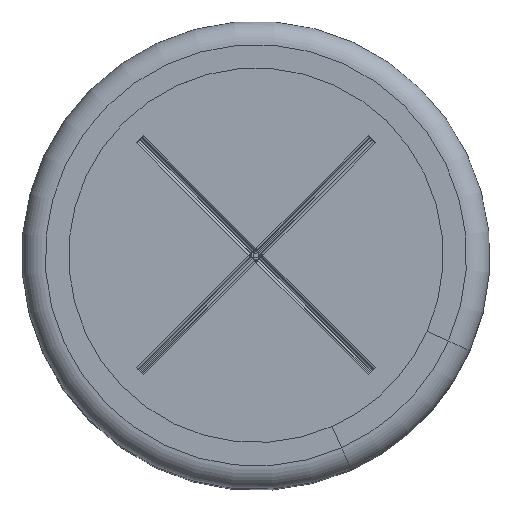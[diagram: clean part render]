
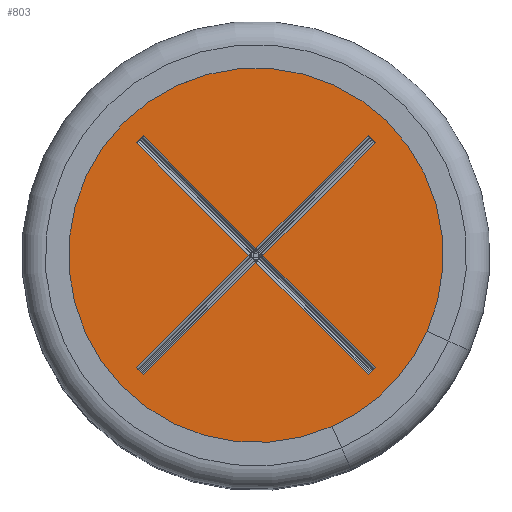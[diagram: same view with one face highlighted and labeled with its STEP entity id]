
A CAD part, top view. The second image highlights one B-rep face of the part: STEP entity #803.
In plain terms, the highlighted planar face has unit normal (0, 0, 1).
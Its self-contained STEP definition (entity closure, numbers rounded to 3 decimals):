
#176=FACE_BOUND('',#1284,.T.);
#177=FACE_BOUND('',#1285,.T.);
#687=PLANE('',#4047);
#803=ADVANCED_FACE('',(#176,#177),#687,.T.);
#1284=EDGE_LOOP('',(#2130));
#1285=EDGE_LOOP('',(#2131,#2132,#2133,#2134,#2135,#2136,#2137,#2138,#2139,
#2140,#2141,#2142));
#1517=LINE('',#5710,#1771);
#1518=LINE('',#5713,#1772);
#1519=LINE('',#5715,#1773);
#1520=LINE('',#5717,#1774);
#1521=LINE('',#5719,#1775);
#1522=LINE('',#5721,#1776);
#1523=LINE('',#5723,#1777);
#1524=LINE('',#5725,#1778);
#1525=LINE('',#5727,#1779);
#1526=LINE('',#5729,#1780);
#1527=LINE('',#5731,#1781);
#1528=LINE('',#5733,#1782);
#1771=VECTOR('',#4590,1.);
#1772=VECTOR('',#4591,1.);
#1773=VECTOR('',#4592,1.);
#1774=VECTOR('',#4593,1.);
#1775=VECTOR('',#4594,1.);
#1776=VECTOR('',#4595,1.);
#1777=VECTOR('',#4596,1.);
#1778=VECTOR('',#4597,1.);
#1779=VECTOR('',#4598,1.);
#1780=VECTOR('',#4599,1.);
#1781=VECTOR('',#4600,1.);
#1782=VECTOR('',#4601,1.);
#2130=ORIENTED_EDGE('',*,*,#3368,.F.);
#2131=ORIENTED_EDGE('',*,*,#3369,.F.);
#2132=ORIENTED_EDGE('',*,*,#3370,.T.);
#2133=ORIENTED_EDGE('',*,*,#3371,.T.);
#2134=ORIENTED_EDGE('',*,*,#3372,.T.);
#2135=ORIENTED_EDGE('',*,*,#3373,.T.);
#2136=ORIENTED_EDGE('',*,*,#3374,.T.);
#2137=ORIENTED_EDGE('',*,*,#3375,.T.);
#2138=ORIENTED_EDGE('',*,*,#3376,.T.);
#2139=ORIENTED_EDGE('',*,*,#3377,.T.);
#2140=ORIENTED_EDGE('',*,*,#3378,.F.);
#2141=ORIENTED_EDGE('',*,*,#3379,.T.);
#2142=ORIENTED_EDGE('',*,*,#3380,.T.);
#3038=VERTEX_POINT('',#5709);
#3039=VERTEX_POINT('',#5711);
#3040=VERTEX_POINT('',#5712);
#3041=VERTEX_POINT('',#5714);
#3042=VERTEX_POINT('',#5716);
#3043=VERTEX_POINT('',#5718);
#3044=VERTEX_POINT('',#5720);
#3045=VERTEX_POINT('',#5722);
#3046=VERTEX_POINT('',#5724);
#3047=VERTEX_POINT('',#5726);
#3048=VERTEX_POINT('',#5728);
#3049=VERTEX_POINT('',#5730);
#3050=VERTEX_POINT('',#5732);
#3368=EDGE_CURVE('',#3038,#3038,#3826,.T.);
#3369=EDGE_CURVE('',#3039,#3040,#1517,.T.);
#3370=EDGE_CURVE('',#3039,#3041,#1518,.T.);
#3371=EDGE_CURVE('',#3041,#3042,#1519,.T.);
#3372=EDGE_CURVE('',#3042,#3043,#1520,.T.);
#3373=EDGE_CURVE('',#3043,#3044,#1521,.T.);
#3374=EDGE_CURVE('',#3044,#3045,#1522,.T.);
#3375=EDGE_CURVE('',#3045,#3046,#1523,.T.);
#3376=EDGE_CURVE('',#3046,#3047,#1524,.T.);
#3377=EDGE_CURVE('',#3047,#3048,#1525,.T.);
#3378=EDGE_CURVE('',#3049,#3048,#1526,.T.);
#3379=EDGE_CURVE('',#3049,#3050,#1527,.T.);
#3380=EDGE_CURVE('',#3050,#3040,#1528,.T.);
#3826=CIRCLE('',#4046,9.);
#4046=AXIS2_PLACEMENT_3D('',#5708,#4588,#4589);
#4047=AXIS2_PLACEMENT_3D('',#5734,#4602,#4603);
#4588=DIRECTION('',(0.,0.,-1.));
#4589=DIRECTION('',(-1.,0.,0.));
#4590=DIRECTION('',(0.707,-0.707,0.));
#4591=DIRECTION('',(0.707,0.707,0.));
#4592=DIRECTION('',(-0.707,0.707,0.));
#4593=DIRECTION('',(0.707,0.707,0.));
#4594=DIRECTION('',(0.707,-0.707,0.));
#4595=DIRECTION('',(0.707,0.707,0.));
#4596=DIRECTION('',(0.707,-0.707,0.));
#4597=DIRECTION('',(-0.707,-0.707,0.));
#4598=DIRECTION('',(0.707,-0.707,0.));
#4599=DIRECTION('',(0.707,0.707,0.));
#4600=DIRECTION('',(-0.707,0.707,0.));
#4601=DIRECTION('',(-0.707,-0.707,0.));
#4602=DIRECTION('',(0.,0.,1.));
#4603=DIRECTION('',(1.,0.,0.));
#5708=CARTESIAN_POINT('',(0.,0.,29.8));
#5709=CARTESIAN_POINT('',(-9.,0.,29.8));
#5710=CARTESIAN_POINT('',(-5.056,-4.844,29.8));
#5711=CARTESIAN_POINT('',(-5.1,-4.8,29.8));
#5712=CARTESIAN_POINT('',(-4.8,-5.1,29.8));
#5713=CARTESIAN_POINT('',(-4.65,-4.35,29.8));
#5714=CARTESIAN_POINT('',(-0.3,0.,29.8));
#5715=CARTESIAN_POINT('',(-4.65,4.35,29.8));
#5716=CARTESIAN_POINT('',(-5.1,4.8,29.8));
#5717=CARTESIAN_POINT('',(-4.844,5.056,29.8));
#5718=CARTESIAN_POINT('',(-4.8,5.1,29.8));
#5719=CARTESIAN_POINT('',(-4.35,4.65,29.8));
#5720=CARTESIAN_POINT('',(0.,0.3,29.8));
#5721=CARTESIAN_POINT('',(-4.65,-4.35,29.8));
#5722=CARTESIAN_POINT('',(4.8,5.1,29.8));
#5723=CARTESIAN_POINT('',(4.844,5.056,29.8));
#5724=CARTESIAN_POINT('',(5.1,4.8,29.8));
#5725=CARTESIAN_POINT('',(-4.35,-4.65,29.8));
#5726=CARTESIAN_POINT('',(0.3,0.,29.8));
#5727=CARTESIAN_POINT('',(-4.35,4.65,29.8));
#5728=CARTESIAN_POINT('',(5.1,-4.8,29.8));
#5729=CARTESIAN_POINT('',(5.056,-4.844,29.8));
#5730=CARTESIAN_POINT('',(4.8,-5.1,29.8));
#5731=CARTESIAN_POINT('',(-4.65,4.35,29.8));
#5732=CARTESIAN_POINT('',(0.,-0.3,29.8));
#5733=CARTESIAN_POINT('',(-4.35,-4.65,29.8));
#5734=CARTESIAN_POINT('',(-9.,0.,29.8));
